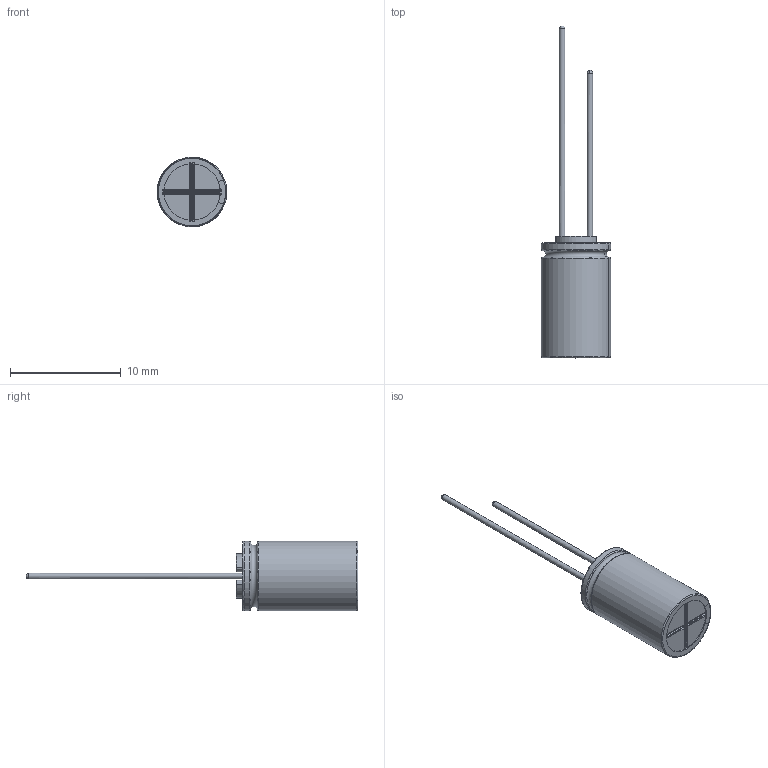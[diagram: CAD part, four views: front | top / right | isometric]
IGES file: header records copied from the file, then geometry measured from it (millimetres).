
Start section: JAMA-IS VERSION  1.0
Bounding box: 6.29 x 30 x 6.3 mm (x, y, z)
Surface area: 791.3 mm2 (no closed solid volume)
Topology: 0 solids, 0 shells, 120 faces, 1287 edges, 1276 vertices
Faces by surface type: bspline 120
